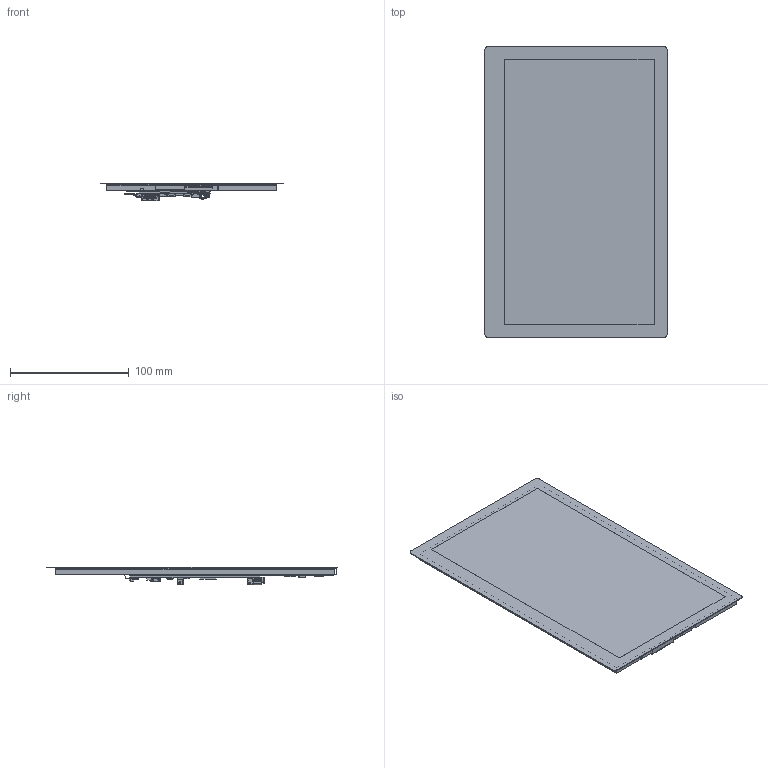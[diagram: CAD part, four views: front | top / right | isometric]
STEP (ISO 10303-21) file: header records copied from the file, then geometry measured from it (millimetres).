
FILE_DESCRIPTION((''),'2;1');
FILE_NAME('10_1HP-CAPQLED-B_ASM','2026-07-21T19:46:58',('ag'),(''),'CREO PARAMETRIC BY PTC INC, 2021063','CREO PARAMETRIC BY PTC INC, 2021063','');
FILE_SCHEMA(('CONFIG_CONTROL_DESIGN','SHAPE_APPEARANCE_LAYERS_GROUPS'));
Products named in the file (19): 10_1INCH-720X1280-TP; 10_1INCH-720X1280-QLED; 10_1INCH-720X1280-LCD_ASM; 10_1HP-CAPQLED-PCB_4; HDMI-J1_47151-0001_61277A9B_1; SWITCH-7X3_3X3_5_3; J3_USER_LIBRARY-SM02B-BHSS-1-TB; HP2_0-4PIN-SMT-00_2; HP1_25MMX4PIN-SMT_2; 6PIN-FPC-CONNECTOR_2; BUTTON-5X5X1_5_1; HP_SMT; MICRO-USB-SMD; FPC0_5_2H-S-W-40P; FPC-SMD_6P-0_5; 0001; 10_1HP-CAPQLED-PCBA_ASM_3_ASM; B-30TO40PIN00; 10_1HP-CAPQLED-B_ASM
Assembly tree (19 placements, depth 3):
  10_1HP-CAPQLED-B_ASM
    10_1INCH-720X1280-LCD_ASM
      10_1INCH-720X1280-TP
      10_1INCH-720X1280-QLED
    10_1HP-CAPQLED-PCBA_ASM_3_ASM
      10_1HP-CAPQLED-PCB_4
      HDMI-J1_47151-0001_61277A9B_1
      SWITCH-7X3_3X3_5_3
      J3_USER_LIBRARY-SM02B-BHSS-1-TB
      HP2_0-4PIN-SMT-00_2
      HP1_25MMX4PIN-SMT_2
      6PIN-FPC-CONNECTOR_2
      BUTTON-5X5X1_5_1
      HP_SMT
      MICRO-USB-SMD  x2
      FPC0_5_2H-S-W-40P
      FPC-SMD_6P-0_5
      0001
    B-30TO40PIN00
Bounding box: 153.58 x 245.8 x 15.03 mm (x, y, z)
Volume: 211375.9 mm3; surface area: 176013 mm2
Topology: 23 solids, 25 shells, 5747 faces, 16432 edges, 10626 vertices
Faces by surface type: plane 4738, cylinder 843, extrusion 99, sphere 25, bspline 18, torus 12, cone 8, revolution 4
Entity records: 217475 total; most frequent: CARTESIAN_POINT 36766, ORIENTED_EDGE 30672, DIRECTION 27413, EDGE_CURVE 15336, VECTOR 13555, LINE 13470, VERTEX_POINT 9896, AXIS2_PLACEMENT_3D 6927
